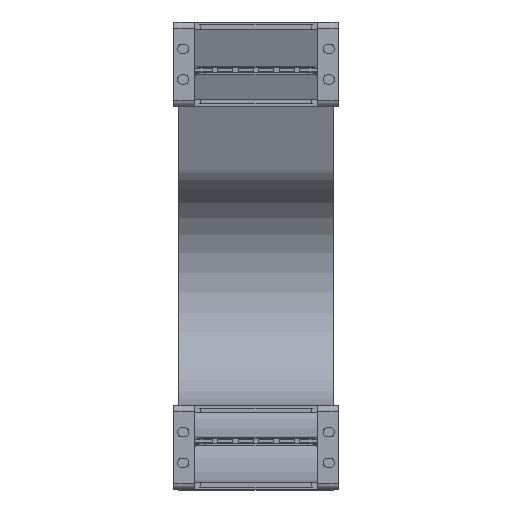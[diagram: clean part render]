
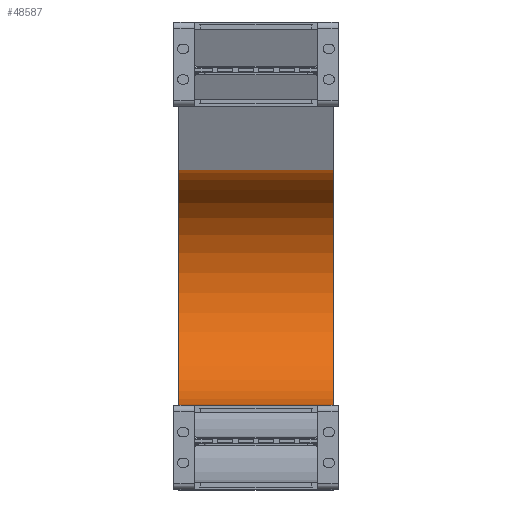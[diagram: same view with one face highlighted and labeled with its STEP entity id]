
A CAD part, top view. The second image highlights one B-rep face of the part: STEP entity #48587.
In plain terms, the highlighted cylindrical face has radius 57.5 mm (diameter 115 mm), a partial arc.
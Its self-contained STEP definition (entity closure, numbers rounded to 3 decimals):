
#47739=DIRECTION('',(-1.,0.,0.));
#47740=VECTOR('',#47739,75.);
#47741=CARTESIAN_POINT('',(37.5,41.,-400.));
#47742=LINE('',#47741,#47740);
#47753=DIRECTION('',(-1.,0.,0.));
#47754=VECTOR('',#47753,75.);
#47755=CARTESIAN_POINT('',(37.5,155.782,-405.006));
#47756=LINE('',#47755,#47754);
#47760=CARTESIAN_POINT('',(37.5,98.5,-400.));
#47761=DIRECTION('',(-1.,0.,0.));
#47762=DIRECTION('',(0.,0.996,-0.087));
#47763=AXIS2_PLACEMENT_3D('',#47760,#47761,#47762);
#47839=CARTESIAN_POINT('',(-37.5,98.5,-400.));
#47840=DIRECTION('',(-1.,0.,0.));
#47841=DIRECTION('',(0.,0.996,-0.087));
#47842=AXIS2_PLACEMENT_3D('',#47839,#47840,#47841);
#47961=CARTESIAN_POINT('',(37.5,155.782,-405.006));
#47962=CARTESIAN_POINT('',(-37.5,155.782,-405.006));
#47963=VERTEX_POINT('',#47961);
#47964=VERTEX_POINT('',#47962);
#47985=CARTESIAN_POINT('',(37.5,41.,-400.));
#47986=CARTESIAN_POINT('',(-37.5,41.,-400.));
#47987=VERTEX_POINT('',#47985);
#47988=VERTEX_POINT('',#47986);
#48573=CARTESIAN_POINT('',(1.,98.5,-400.));
#48574=DIRECTION('',(-1.,0.,0.));
#48575=DIRECTION('',(0.,-0.996,0.087));
#48576=AXIS2_PLACEMENT_3D('',#48573,#48574,#48575);
#48577=CYLINDRICAL_SURFACE('',#48576,57.5);
#48579=ORIENTED_EDGE('',*,*,#48578,.F.);
#48581=ORIENTED_EDGE('',*,*,#48580,.T.);
#48582=ORIENTED_EDGE('',*,*,#48556,.T.);
#48584=ORIENTED_EDGE('',*,*,#48583,.F.);
#48585=EDGE_LOOP('',(#48579,#48581,#48582,#48584));
#48586=FACE_OUTER_BOUND('',#48585,.F.);
#47764=CIRCLE('',#47763,57.5);
#47843=CIRCLE('',#47842,57.5);
#48556=EDGE_CURVE('',#47987,#47988,#47742,.T.);
#48578=EDGE_CURVE('',#47963,#47964,#47756,.T.);
#48580=EDGE_CURVE('',#47963,#47987,#47764,.T.);
#48583=EDGE_CURVE('',#47964,#47988,#47843,.T.);
#48587=ADVANCED_FACE('',(#48586),#48577,.F.);
